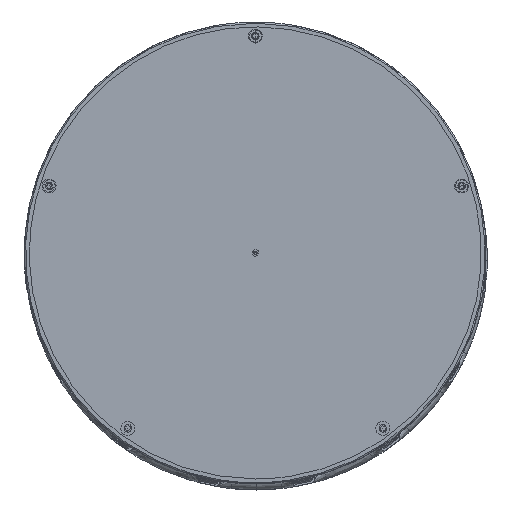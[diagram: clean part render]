
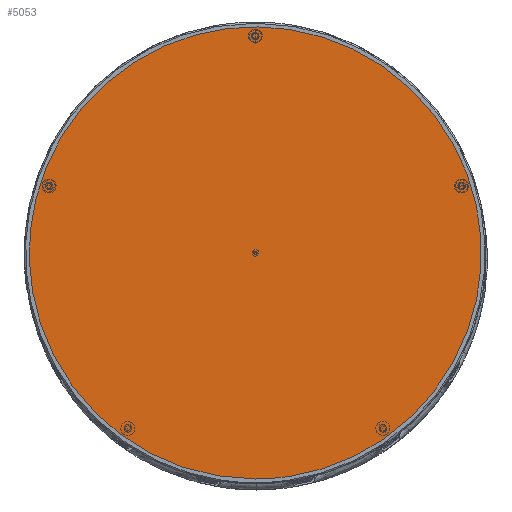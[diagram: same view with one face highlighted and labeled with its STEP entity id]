
A CAD part, top view. The second image highlights one B-rep face of the part: STEP entity #5053.
In plain terms, the highlighted planar face has unit normal (0, 0, 1).
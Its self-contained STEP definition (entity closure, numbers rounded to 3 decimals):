
#5053=ADVANCED_FACE('',(#9941),#67093,.T.);
#9941=FACE_OUTER_BOUND('',#14852,.T.);
#14852=EDGE_LOOP('',(#33284));
#33284=ORIENTED_EDGE('',*,*,#46146,.F.);
#46146=EDGE_CURVE('',#64003,#64003,#58165,.T.);
#58165=(
BOUNDED_CURVE()
B_SPLINE_CURVE(2,(#142520,#142521,#142522,#142523,#142524,#142525,#142526,
#142527,#142528),.UNSPECIFIED.,.T.,.F.)
B_SPLINE_CURVE_WITH_KNOTS((3,2,2,2,3),(-579.624,-289.812,
0.,289.812,579.624),.UNSPECIFIED.)
CURVE()
GEOMETRIC_REPRESENTATION_ITEM()
RATIONAL_B_SPLINE_CURVE((1.,0.707,1.,0.707,1.,0.707,
1.,0.707,1.))
REPRESENTATION_ITEM('')
);
#64003=VERTEX_POINT('',#142467);
#67093=PLANE('',#71731);
#71731=AXIS2_PLACEMENT_3D('',#142457,#73868,$);
#73868=DIRECTION('',(0.,0.,1.));
#142457=CARTESIAN_POINT('',(665.933,191.94,1856.5));
#142467=CARTESIAN_POINT('',(854.123,-180.75,1856.5));
#142520=CARTESIAN_POINT('',(854.123,-180.75,1856.5));
#142521=CARTESIAN_POINT('',(669.623,-180.75,1856.5));
#142522=CARTESIAN_POINT('',(669.623,3.75,1856.5));
#142523=CARTESIAN_POINT('',(669.623,188.25,1856.5));
#142524=CARTESIAN_POINT('',(854.123,188.25,1856.5));
#142525=CARTESIAN_POINT('',(1038.623,188.25,1856.5));
#142526=CARTESIAN_POINT('',(1038.623,3.75,1856.5));
#142527=CARTESIAN_POINT('',(1038.623,-180.75,1856.5));
#142528=CARTESIAN_POINT('',(854.123,-180.75,1856.5));
